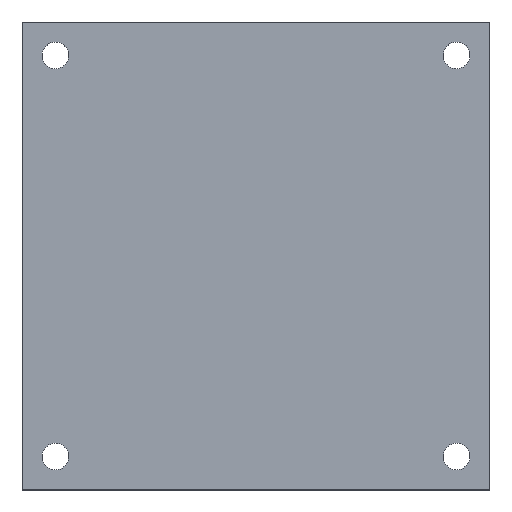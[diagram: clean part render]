
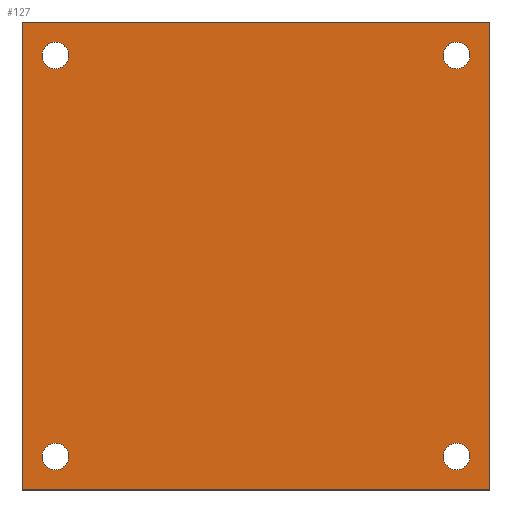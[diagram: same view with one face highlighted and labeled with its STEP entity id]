
A CAD part, top view. The second image highlights one B-rep face of the part: STEP entity #127.
In plain terms, the highlighted planar face has unit normal (0, 0, 1).
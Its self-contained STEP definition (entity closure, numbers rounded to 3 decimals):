
#22=FACE_BOUND($,#186,.T.);
#23=FACE_BOUND($,#187,.T.);
#24=FACE_BOUND($,#188,.T.);
#25=FACE_BOUND($,#189,.T.);
#30=PLANE($,#544);
#38=(
BOUNDED_CURVE()
B_SPLINE_CURVE(2,(#1592,#1593,#1594,#1595,#1596),.UNSPECIFIED.,.F.,.F.)
B_SPLINE_CURVE_WITH_KNOTS((3,2,3),(-12.565,-9.423,-6.282),
.UNSPECIFIED.)
CURVE()
GEOMETRIC_REPRESENTATION_ITEM()
RATIONAL_B_SPLINE_CURVE((1.,0.707,1.,0.707,1.))
REPRESENTATION_ITEM($)
);
#40=(
BOUNDED_CURVE()
B_SPLINE_CURVE(2,(#1604,#1605,#1606,#1607,#1608),.UNSPECIFIED.,.F.,.F.)
B_SPLINE_CURVE_WITH_KNOTS((3,2,3),(0.,3.141,6.282),
.UNSPECIFIED.)
CURVE()
GEOMETRIC_REPRESENTATION_ITEM()
RATIONAL_B_SPLINE_CURVE((1.,0.707,1.,0.707,1.))
REPRESENTATION_ITEM($)
);
#42=(
BOUNDED_CURVE()
B_SPLINE_CURVE(2,(#1616,#1617,#1618,#1619,#1620),.UNSPECIFIED.,.F.,.F.)
B_SPLINE_CURVE_WITH_KNOTS((3,2,3),(-12.565,-9.423,-6.282),
.UNSPECIFIED.)
CURVE()
GEOMETRIC_REPRESENTATION_ITEM()
RATIONAL_B_SPLINE_CURVE((1.,0.707,1.,0.707,1.))
REPRESENTATION_ITEM($)
);
#44=(
BOUNDED_CURVE()
B_SPLINE_CURVE(2,(#1628,#1629,#1630,#1631,#1632),.UNSPECIFIED.,.F.,.F.)
B_SPLINE_CURVE_WITH_KNOTS((3,2,3),(0.,3.141,6.282),
.UNSPECIFIED.)
CURVE()
GEOMETRIC_REPRESENTATION_ITEM()
RATIONAL_B_SPLINE_CURVE((1.,0.707,1.,0.707,1.))
REPRESENTATION_ITEM($)
);
#46=(
BOUNDED_CURVE()
B_SPLINE_CURVE(2,(#1642,#1643,#1644,#1645,#1646),.UNSPECIFIED.,.F.,.F.)
B_SPLINE_CURVE_WITH_KNOTS((3,2,3),(-6.282,-3.141,0.),
.UNSPECIFIED.)
CURVE()
GEOMETRIC_REPRESENTATION_ITEM()
RATIONAL_B_SPLINE_CURVE((1.,0.707,1.,0.707,1.))
REPRESENTATION_ITEM($)
);
#48=(
BOUNDED_CURVE()
B_SPLINE_CURVE(2,(#1654,#1655,#1656,#1657,#1658),.UNSPECIFIED.,.F.,.F.)
B_SPLINE_CURVE_WITH_KNOTS((3,2,3),(6.282,9.423,12.565),
.UNSPECIFIED.)
CURVE()
GEOMETRIC_REPRESENTATION_ITEM()
RATIONAL_B_SPLINE_CURVE((1.,0.707,1.,0.707,1.))
REPRESENTATION_ITEM($)
);
#50=(
BOUNDED_CURVE()
B_SPLINE_CURVE(2,(#1666,#1667,#1668,#1669,#1670),.UNSPECIFIED.,.F.,.F.)
B_SPLINE_CURVE_WITH_KNOTS((3,2,3),(-6.282,-3.141,0.),
.UNSPECIFIED.)
CURVE()
GEOMETRIC_REPRESENTATION_ITEM()
RATIONAL_B_SPLINE_CURVE((1.,0.707,1.,0.707,1.))
REPRESENTATION_ITEM($)
);
#52=(
BOUNDED_CURVE()
B_SPLINE_CURVE(2,(#1678,#1679,#1680,#1681,#1682),.UNSPECIFIED.,.F.,.F.)
B_SPLINE_CURVE_WITH_KNOTS((3,2,3),(6.282,9.423,12.565),
.UNSPECIFIED.)
CURVE()
GEOMETRIC_REPRESENTATION_ITEM()
RATIONAL_B_SPLINE_CURVE((1.,0.707,1.,0.707,1.))
REPRESENTATION_ITEM($)
);
#127=ADVANCED_FACE($,(#153,#22,#23,#24,#25),#30,.T.);
#153=FACE_OUTER_BOUND($,#185,.T.);
#185=EDGE_LOOP($,(#262,#263,#264,#265));
#186=EDGE_LOOP($,(#266,#267));
#187=EDGE_LOOP($,(#268,#269));
#188=EDGE_LOOP($,(#270,#271));
#189=EDGE_LOOP($,(#272,#273));
#262=ORIENTED_EDGE($,*,*,#357,.F.);
#263=ORIENTED_EDGE($,*,*,#358,.F.);
#264=ORIENTED_EDGE($,*,*,#359,.F.);
#265=ORIENTED_EDGE($,*,*,#353,.F.);
#266=ORIENTED_EDGE($,*,*,#377,.F.);
#267=ORIENTED_EDGE($,*,*,#364,.F.);
#268=ORIENTED_EDGE($,*,*,#380,.F.);
#269=ORIENTED_EDGE($,*,*,#367,.F.);
#270=ORIENTED_EDGE($,*,*,#383,.F.);
#271=ORIENTED_EDGE($,*,*,#370,.F.);
#272=ORIENTED_EDGE($,*,*,#386,.F.);
#273=ORIENTED_EDGE($,*,*,#373,.F.);
#353=EDGE_CURVE($,#411,#417,#502,.T.);
#357=EDGE_CURVE($,#415,#411,#506,.T.);
#358=EDGE_CURVE($,#416,#415,#507,.T.);
#359=EDGE_CURVE($,#417,#416,#508,.T.);
#364=EDGE_CURVE($,#419,#427,#38,.T.);
#367=EDGE_CURVE($,#421,#428,#40,.T.);
#370=EDGE_CURVE($,#423,#431,#42,.T.);
#373=EDGE_CURVE($,#425,#432,#44,.T.);
#377=EDGE_CURVE($,#427,#419,#46,.T.);
#380=EDGE_CURVE($,#428,#421,#48,.T.);
#383=EDGE_CURVE($,#431,#423,#50,.T.);
#386=EDGE_CURVE($,#432,#425,#52,.T.);
#411=VERTEX_POINT($,#1770);
#415=VERTEX_POINT($,#1774);
#416=VERTEX_POINT($,#1775);
#417=VERTEX_POINT($,#1776);
#419=VERTEX_POINT($,#1778);
#421=VERTEX_POINT($,#1780);
#423=VERTEX_POINT($,#1782);
#425=VERTEX_POINT($,#1784);
#427=VERTEX_POINT($,#1786);
#428=VERTEX_POINT($,#1787);
#431=VERTEX_POINT($,#1790);
#432=VERTEX_POINT($,#1791);
#502=B_SPLINE_CURVE_WITH_KNOTS($,1,(#1567,#1568),.UNSPECIFIED.,.F.,.F.,(2,
2),(0.,90.),.UNSPECIFIED.);
#506=B_SPLINE_CURVE_WITH_KNOTS($,1,(#1575,#1576),.UNSPECIFIED.,.F.,.F.,(2,
2),(250.,320.),.UNSPECIFIED.);
#507=B_SPLINE_CURVE_WITH_KNOTS($,1,(#1577,#1578),.UNSPECIFIED.,.F.,.F.,(2,
2),(160.,250.),.UNSPECIFIED.);
#508=B_SPLINE_CURVE_WITH_KNOTS($,1,(#1579,#1580),.UNSPECIFIED.,.F.,.F.,(2,
2),(90.,160.),.UNSPECIFIED.);
#544=AXIS2_PLACEMENT_3D($,#1685,#557,$);
#557=DIRECTION($,(0.,0.,1.));
#1567=CARTESIAN_POINT($,(-35.,35.,0.));
#1568=CARTESIAN_POINT($,(35.,35.,0.));
#1575=CARTESIAN_POINT($,(-35.,-35.,0.));
#1576=CARTESIAN_POINT($,(-35.,35.,0.));
#1577=CARTESIAN_POINT($,(35.,-35.,0.));
#1578=CARTESIAN_POINT($,(-35.,-35.,0.));
#1579=CARTESIAN_POINT($,(35.,35.,0.));
#1580=CARTESIAN_POINT($,(35.,-35.,0.));
#1592=CARTESIAN_POINT($,(-32.,30.,0.));
#1593=CARTESIAN_POINT($,(-32.,28.,0.));
#1594=CARTESIAN_POINT($,(-30.,28.,0.));
#1595=CARTESIAN_POINT($,(-28.,28.,0.));
#1596=CARTESIAN_POINT($,(-28.,30.,0.));
#1604=CARTESIAN_POINT($,(32.,30.,0.));
#1605=CARTESIAN_POINT($,(32.,32.,0.));
#1606=CARTESIAN_POINT($,(30.,32.,0.));
#1607=CARTESIAN_POINT($,(28.,32.,0.));
#1608=CARTESIAN_POINT($,(28.,30.,0.));
#1616=CARTESIAN_POINT($,(32.,-30.,0.));
#1617=CARTESIAN_POINT($,(32.,-28.,0.));
#1618=CARTESIAN_POINT($,(30.,-28.,0.));
#1619=CARTESIAN_POINT($,(28.,-28.,0.));
#1620=CARTESIAN_POINT($,(28.,-30.,0.));
#1628=CARTESIAN_POINT($,(-32.,-30.,0.));
#1629=CARTESIAN_POINT($,(-32.,-32.,0.));
#1630=CARTESIAN_POINT($,(-30.,-32.,0.));
#1631=CARTESIAN_POINT($,(-28.,-32.,0.));
#1632=CARTESIAN_POINT($,(-28.,-30.,0.));
#1642=CARTESIAN_POINT($,(-28.,30.,0.));
#1643=CARTESIAN_POINT($,(-28.,32.,0.));
#1644=CARTESIAN_POINT($,(-30.,32.,0.));
#1645=CARTESIAN_POINT($,(-32.,32.,0.));
#1646=CARTESIAN_POINT($,(-32.,30.,0.));
#1654=CARTESIAN_POINT($,(28.,30.,0.));
#1655=CARTESIAN_POINT($,(28.,28.,0.));
#1656=CARTESIAN_POINT($,(30.,28.,0.));
#1657=CARTESIAN_POINT($,(32.,28.,0.));
#1658=CARTESIAN_POINT($,(32.,30.,0.));
#1666=CARTESIAN_POINT($,(28.,-30.,0.));
#1667=CARTESIAN_POINT($,(28.,-32.,0.));
#1668=CARTESIAN_POINT($,(30.,-32.,0.));
#1669=CARTESIAN_POINT($,(32.,-32.,0.));
#1670=CARTESIAN_POINT($,(32.,-30.,0.));
#1678=CARTESIAN_POINT($,(-28.,-30.,0.));
#1679=CARTESIAN_POINT($,(-28.,-28.,0.));
#1680=CARTESIAN_POINT($,(-30.,-28.,0.));
#1681=CARTESIAN_POINT($,(-32.,-28.,0.));
#1682=CARTESIAN_POINT($,(-32.,-30.,0.));
#1685=CARTESIAN_POINT($,(-35.,35.,0.));
#1770=CARTESIAN_POINT($,(-35.,35.,0.));
#1774=CARTESIAN_POINT($,(-35.,-35.,0.));
#1775=CARTESIAN_POINT($,(35.,-35.,0.));
#1776=CARTESIAN_POINT($,(35.,35.,0.));
#1778=CARTESIAN_POINT($,(-32.,30.,0.));
#1780=CARTESIAN_POINT($,(32.,30.,0.));
#1782=CARTESIAN_POINT($,(32.,-30.,0.));
#1784=CARTESIAN_POINT($,(-32.,-30.,0.));
#1786=CARTESIAN_POINT($,(-28.,30.,0.));
#1787=CARTESIAN_POINT($,(28.,30.,0.));
#1790=CARTESIAN_POINT($,(28.,-30.,0.));
#1791=CARTESIAN_POINT($,(-28.,-30.,0.));
